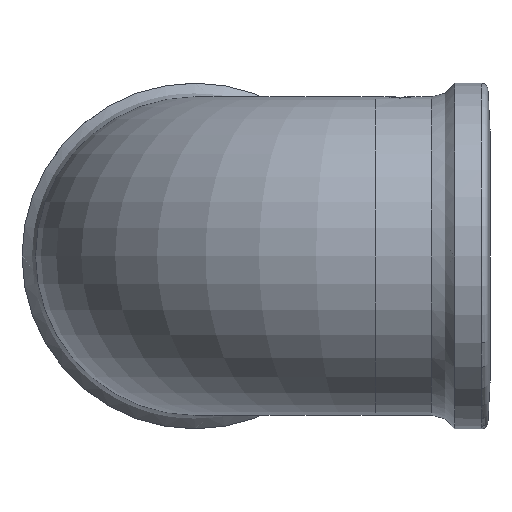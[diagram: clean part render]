
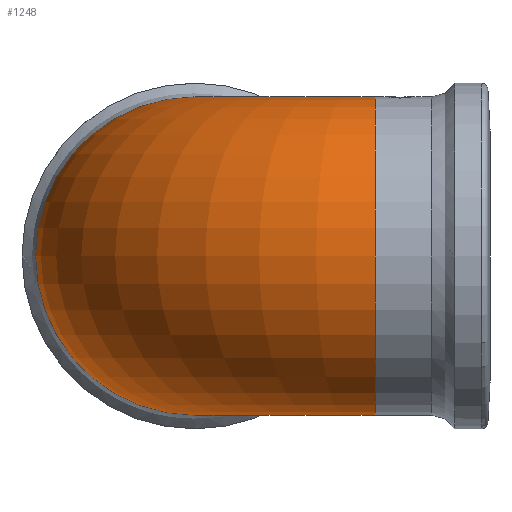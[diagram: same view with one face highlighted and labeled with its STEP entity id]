
A CAD part, left-side view. The second image highlights one B-rep face of the part: STEP entity #1248.
In plain terms, the highlighted toroidal (fillet/blend) face has major radius 27.5 mm and minor radius 24.25 mm.
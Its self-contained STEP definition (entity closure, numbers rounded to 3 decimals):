
#866=CARTESIAN_POINT('',(23.829,17.5,4.5));
#867=VERTEX_POINT('',#866);
#874=CARTESIAN_POINT('',(23.829,17.5,-4.5));
#875=VERTEX_POINT('',#874);
#876=CARTESIAN_POINT('',(0.0,17.5,0.0));
#877=DIRECTION('',(0.0,-1.0,0.0));
#878=DIRECTION('',(1.0,0.0,0.0));
#879=AXIS2_PLACEMENT_3D('',#876,#877,#878);
#880=CIRCLE('',#879,24.25);
#881=EDGE_CURVE('',#867,#875,#880,.T.);
#940=CARTESIAN_POINT('',(27.5,21.171,4.5));
#941=VERTEX_POINT('',#940);
#948=CARTESIAN_POINT('',(27.5,17.5,4.5));
#949=DIRECTION('',(0.0,0.0,-1.0));
#950=DIRECTION('',(-1.0,0.0,0.0));
#951=AXIS2_PLACEMENT_3D('',#948,#949,#950);
#952=CIRCLE('',#951,3.671);
#953=EDGE_CURVE('',#867,#941,#952,.T.);
#1081=CARTESIAN_POINT('',(27.5,21.171,-4.5));
#1082=VERTEX_POINT('',#1081);
#1083=CARTESIAN_POINT('',(27.5,17.5,-4.5));
#1084=DIRECTION('',(0.0,0.0,1.0));
#1085=DIRECTION('',(-1.0,0.0,0.0));
#1086=AXIS2_PLACEMENT_3D('',#1083,#1084,#1085);
#1087=CIRCLE('',#1086,3.671);
#1088=EDGE_CURVE('',#1082,#875,#1087,.T.);
#1134=CARTESIAN_POINT('',(27.5,45.0,0.0));
#1135=DIRECTION('',(-1.0,0.0,0.0));
#1136=DIRECTION('',(0.0,-1.0,0.0));
#1137=AXIS2_PLACEMENT_3D('',#1134,#1135,#1136);
#1138=CIRCLE('',#1137,24.25);
#1139=EDGE_CURVE('',#941,#1082,#1138,.T.);
#1237=CARTESIAN_POINT('',(27.5,17.5,0.0));
#1238=DIRECTION('',(0.0,0.0,-1.0));
#1239=DIRECTION('',(-1.0,0.0,0.0));
#1240=AXIS2_PLACEMENT_3D('',#1237,#1238,#1239);
#1241=TOROIDAL_SURFACE('',#1240,27.5,24.25);
#1242=ORIENTED_EDGE('',*,*,#881,.F.);
#1243=ORIENTED_EDGE('',*,*,#953,.T.);
#1244=ORIENTED_EDGE('',*,*,#1139,.T.);
#1245=ORIENTED_EDGE('',*,*,#1088,.T.);
#1246=EDGE_LOOP('',(#1242,#1243,#1244,#1245));
#1247=FACE_OUTER_BOUND('',#1246,.T.);
#1248=ADVANCED_FACE('',(#1247),#1241,.T.);
